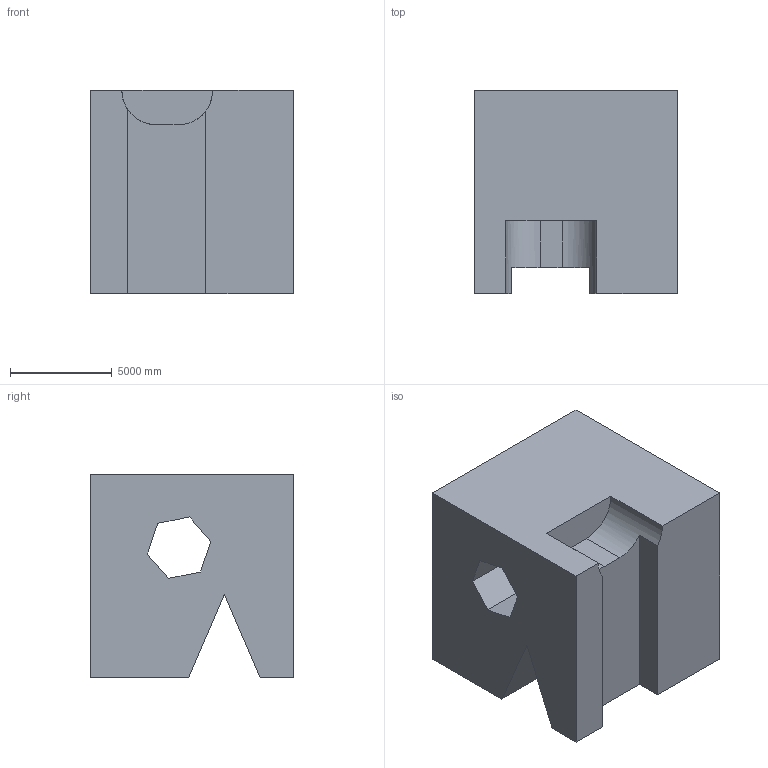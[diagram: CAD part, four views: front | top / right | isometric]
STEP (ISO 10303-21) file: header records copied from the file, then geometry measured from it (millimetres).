
FILE_DESCRIPTION (( 'STEP AP203' ), '1' );
FILE_NAME ('339.STEP', '2022-07-28T14:24:10', ( 'user' ), ( '' ), 'SwSTEP 2.0', 'SolidWorks 2021', '' );
FILE_SCHEMA (( 'CONFIG_CONTROL_DESIGN' ));
Length unit declared in the file: centimetre
Products named in the file (1): 339
Bounding box: 10000 x 10000 x 10000 mm (x, y, z)
Volume: 797722094587.8 mm3; surface area: 741521740.4 mm2
Topology: 1 solids, 1 shells, 23 faces, 63 edges, 42 vertices
Faces by surface type: plane 21, cylinder 2
Entity records: 804 total; most frequent: CARTESIAN_POINT 129, ORIENTED_EDGE 126, DIRECTION 117, EDGE_CURVE 63, LINE 57, VECTOR 57, VERTEX_POINT 42, AXIS2_PLACEMENT_3D 30
